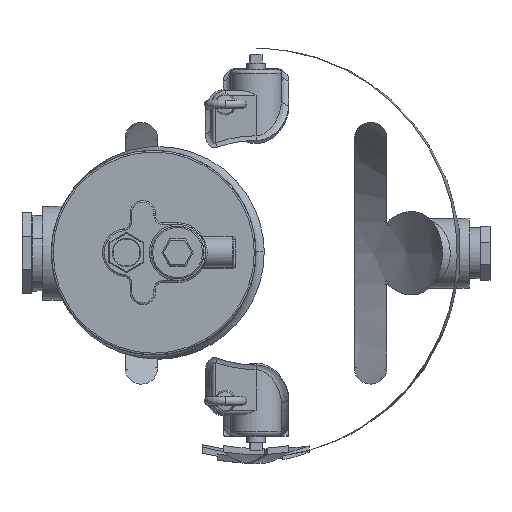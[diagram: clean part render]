
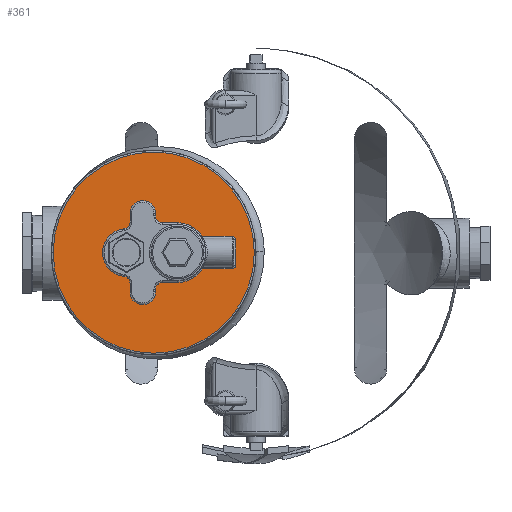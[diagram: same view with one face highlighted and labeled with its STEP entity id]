
A CAD part, top view. The second image highlights one B-rep face of the part: STEP entity #361.
In plain terms, the highlighted planar face has unit normal (0, 0, 1) as drawn and (0, 1, 0) by its records, which use the part's own axes.
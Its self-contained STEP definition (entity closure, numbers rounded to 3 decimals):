
#361=ADVANCED_FACE('',(#1639,#1640),#1638,.T.);
#1638=PLANE('',#22856);
#1639=FACE_OUTER_BOUND('',#22857,.T.);
#1640=FACE_BOUND('',#22858,.T.);
#22853=CARTESIAN_POINT('',(126.,283.5,-214.382));
#22854=DIRECTION('',(0.,1.,0.));
#22855=DIRECTION('',(-1.,0.,0.));
#22856=AXIS2_PLACEMENT_3D('',#22853,#22854,#22855);
#22857=EDGE_LOOP('',(#26950,#26951));
#22858=EDGE_LOOP('',(#26952,#26953,#26954,#26955,#26956,#26957,#26958,#26959,#26960,#26961,#26962,#26963,#26964,#26965,#26966,#26967,#26968,#26969,#26970,#26971));
#26950=ORIENTED_EDGE('',*,*,#28349,.T.);
#26951=ORIENTED_EDGE('',*,*,#28350,.T.);
#26952=ORIENTED_EDGE('',*,*,#28351,.T.);
#26953=ORIENTED_EDGE('',*,*,#28352,.T.);
#26954=ORIENTED_EDGE('',*,*,#28353,.T.);
#26955=ORIENTED_EDGE('',*,*,#28354,.T.);
#26956=ORIENTED_EDGE('',*,*,#28355,.T.);
#26957=ORIENTED_EDGE('',*,*,#28356,.T.);
#26958=ORIENTED_EDGE('',*,*,#28357,.T.);
#26959=ORIENTED_EDGE('',*,*,#28358,.T.);
#26960=ORIENTED_EDGE('',*,*,#28359,.T.);
#26961=ORIENTED_EDGE('',*,*,#28360,.T.);
#26962=ORIENTED_EDGE('',*,*,#28361,.T.);
#26963=ORIENTED_EDGE('',*,*,#28362,.T.);
#26964=ORIENTED_EDGE('',*,*,#28363,.T.);
#26965=ORIENTED_EDGE('',*,*,#28364,.T.);
#26966=ORIENTED_EDGE('',*,*,#28365,.T.);
#26967=ORIENTED_EDGE('',*,*,#28366,.T.);
#26968=ORIENTED_EDGE('',*,*,#28367,.T.);
#26969=ORIENTED_EDGE('',*,*,#28368,.T.);
#26970=ORIENTED_EDGE('',*,*,#28369,.T.);
#26971=ORIENTED_EDGE('',*,*,#28370,.T.);
#28349=EDGE_CURVE('',#30762,#30763,#30764,.T.);
#28350=EDGE_CURVE('',#30763,#30762,#30770,.T.);
#28351=EDGE_CURVE('',#30776,#30777,#30778,.T.);
#28352=EDGE_CURVE('',#30777,#30784,#30785,.T.);
#28353=EDGE_CURVE('',#30784,#30791,#30792,.T.);
#28354=EDGE_CURVE('',#30791,#30798,#30799,.T.);
#28355=EDGE_CURVE('',#30798,#30805,#30806,.T.);
#28356=EDGE_CURVE('',#30805,#30812,#30813,.T.);
#28357=EDGE_CURVE('',#30812,#30819,#30820,.T.);
#28358=EDGE_CURVE('',#30819,#30826,#30827,.T.);
#28359=EDGE_CURVE('',#30826,#30833,#30834,.T.);
#28360=EDGE_CURVE('',#30833,#30840,#30841,.T.);
#28361=EDGE_CURVE('',#30840,#30847,#30848,.T.);
#28362=EDGE_CURVE('',#30847,#30854,#30855,.T.);
#28363=EDGE_CURVE('',#30854,#30861,#30862,.T.);
#28364=EDGE_CURVE('',#30861,#30868,#30869,.T.);
#28365=EDGE_CURVE('',#30868,#30875,#30876,.T.);
#28366=EDGE_CURVE('',#30875,#30882,#30883,.T.);
#28367=EDGE_CURVE('',#30882,#30889,#30890,.T.);
#28368=EDGE_CURVE('',#30889,#30896,#30897,.T.);
#28369=EDGE_CURVE('',#30896,#30903,#30904,.T.);
#28370=EDGE_CURVE('',#30903,#30776,#30910,.T.);
#30762=VERTEX_POINT('',#37016);
#30763=VERTEX_POINT('',#37017);
#30764=CIRCLE('',#37021,118.);
#30770=CIRCLE('',#37025,118.);
#30776=VERTEX_POINT('',#37026);
#30777=VERTEX_POINT('',#37027);
#30778=LINE('',#37028,#37029);
#30784=VERTEX_POINT('',#37031);
#30785=CIRCLE('',#37035,4.);
#30791=VERTEX_POINT('',#37036);
#30792=LINE('',#37037,#37038);
#30798=VERTEX_POINT('',#37040);
#30799=CIRCLE('',#37044,35.);
#30805=VERTEX_POINT('',#37045);
#30806=LINE('',#37046,#37047);
#30812=VERTEX_POINT('',#37049);
#30813=CIRCLE('',#37053,8.);
#30819=VERTEX_POINT('',#37054);
#30820=LINE('',#37055,#37056);
#30826=VERTEX_POINT('',#37058);
#30827=CIRCLE('',#37062,15.);
#30833=VERTEX_POINT('',#37063);
#30834=LINE('',#37064,#37065);
#30840=VERTEX_POINT('',#37067);
#30841=CIRCLE('',#37071,8.);
#30847=VERTEX_POINT('',#37072);
#30848=CIRCLE('',#37076,28.);
#30854=VERTEX_POINT('',#37077);
#30855=CIRCLE('',#37081,8.);
#30861=VERTEX_POINT('',#37082);
#30862=LINE('',#37083,#37084);
#30868=VERTEX_POINT('',#37086);
#30869=CIRCLE('',#37090,15.);
#30875=VERTEX_POINT('',#37091);
#30876=LINE('',#37092,#37093);
#30882=VERTEX_POINT('',#37095);
#30883=CIRCLE('',#37099,8.);
#30889=VERTEX_POINT('',#37100);
#30890=LINE('',#37101,#37102);
#30896=VERTEX_POINT('',#37104);
#30897=CIRCLE('',#37108,35.);
#30903=VERTEX_POINT('',#37109);
#30904=LINE('',#37110,#37111);
#30910=CIRCLE('',#37116,4.);
#37016=CARTESIAN_POINT('',(-238.,283.5,0.));
#37017=CARTESIAN_POINT('',(-2.,283.5,0.));
#37018=CARTESIAN_POINT('',(-120.,283.5,0.));
#37019=DIRECTION('',(0.,1.,0.));
#37020=DIRECTION('',(-1.,0.,0.));
#37021=AXIS2_PLACEMENT_3D('',#37018,#37019,#37020);
#37022=CARTESIAN_POINT('',(-120.,283.5,0.));
#37023=DIRECTION('',(0.,1.,0.));
#37024=DIRECTION('',(-1.,0.,0.));
#37025=AXIS2_PLACEMENT_3D('',#37022,#37023,#37024);
#37026=CARTESIAN_POINT('',(-24.,283.5,-15.));
#37027=CARTESIAN_POINT('',(-24.,283.5,15.));
#37028=CARTESIAN_POINT('',(-24.,283.5,-15.));
#37029=VECTOR('',#37030,30.);
#37030=DIRECTION('',(0.,0.,1.));
#37031=CARTESIAN_POINT('',(-28.,283.5,19.));
#37032=CARTESIAN_POINT('',(-28.,283.5,15.));
#37033=DIRECTION('',(0.,-1.,0.));
#37034=DIRECTION('',(-1.,0.,0.));
#37035=AXIS2_PLACEMENT_3D('',#37032,#37033,#37034);
#37036=CARTESIAN_POINT('',(-62.606,283.5,19.));
#37037=CARTESIAN_POINT('',(-28.,283.5,19.));
#37038=VECTOR('',#37039,34.606);
#37039=DIRECTION('',(-1.,0.,0.));
#37040=CARTESIAN_POINT('',(-92.,283.5,35.));
#37041=CARTESIAN_POINT('',(-92.,283.5,0.));
#37042=DIRECTION('',(0.,-1.,0.));
#37043=DIRECTION('',(-0.84,0.,-0.543));
#37044=AXIS2_PLACEMENT_3D('',#37041,#37042,#37043);
#37045=CARTESIAN_POINT('',(-109.8,283.5,35.));
#37046=CARTESIAN_POINT('',(-92.,283.5,35.));
#37047=VECTOR('',#37048,17.8);
#37048=DIRECTION('',(-1.,0.,0.));
#37049=CARTESIAN_POINT('',(-117.8,283.5,43.));
#37050=CARTESIAN_POINT('',(-109.8,283.5,43.));
#37051=DIRECTION('',(0.,1.,0.));
#37052=DIRECTION('',(0.,0.,1.));
#37053=AXIS2_PLACEMENT_3D('',#37050,#37051,#37052);
#37054=CARTESIAN_POINT('',(-117.8,283.5,46.));
#37055=CARTESIAN_POINT('',(-117.8,283.5,43.));
#37056=VECTOR('',#37057,3.);
#37057=DIRECTION('',(0.,0.,1.));
#37058=CARTESIAN_POINT('',(-147.8,283.5,46.));
#37059=CARTESIAN_POINT('',(-132.8,283.5,46.));
#37060=DIRECTION('',(0.,-1.,0.));
#37061=DIRECTION('',(-1.,0.,0.));
#37062=AXIS2_PLACEMENT_3D('',#37059,#37060,#37061);
#37063=CARTESIAN_POINT('',(-147.8,283.5,35.799));
#37064=CARTESIAN_POINT('',(-147.8,283.5,46.));
#37065=VECTOR('',#37066,10.201);
#37066=DIRECTION('',(0.,0.,-1.));
#37067=CARTESIAN_POINT('',(-154.956,283.5,27.844));
#37068=CARTESIAN_POINT('',(-155.8,283.5,35.799));
#37069=DIRECTION('',(0.,1.,0.));
#37070=DIRECTION('',(-1.,0.,0.));
#37071=AXIS2_PLACEMENT_3D('',#37068,#37069,#37070);
#37072=CARTESIAN_POINT('',(-154.956,283.5,-27.844));
#37073=CARTESIAN_POINT('',(-152.,283.5,0.));
#37074=DIRECTION('',(0.,-1.,0.));
#37075=DIRECTION('',(0.106,0.,-0.994));
#37076=AXIS2_PLACEMENT_3D('',#37073,#37074,#37075);
#37077=CARTESIAN_POINT('',(-147.8,283.5,-35.799));
#37078=CARTESIAN_POINT('',(-155.8,283.5,-35.799));
#37079=DIRECTION('',(0.,1.,0.));
#37080=DIRECTION('',(-0.106,0.,-0.994));
#37081=AXIS2_PLACEMENT_3D('',#37078,#37079,#37080);
#37082=CARTESIAN_POINT('',(-147.8,283.5,-46.));
#37083=CARTESIAN_POINT('',(-147.8,283.5,-35.799));
#37084=VECTOR('',#37085,10.201);
#37085=DIRECTION('',(0.,0.,-1.));
#37086=CARTESIAN_POINT('',(-117.8,283.5,-46.));
#37087=CARTESIAN_POINT('',(-132.8,283.5,-46.));
#37088=DIRECTION('',(0.,-1.,0.));
#37089=DIRECTION('',(1.,0.,0.));
#37090=AXIS2_PLACEMENT_3D('',#37087,#37088,#37089);
#37091=CARTESIAN_POINT('',(-117.8,283.5,-43.));
#37092=CARTESIAN_POINT('',(-117.8,283.5,-46.));
#37093=VECTOR('',#37094,3.);
#37094=DIRECTION('',(0.,0.,1.));
#37095=CARTESIAN_POINT('',(-109.8,283.5,-35.));
#37096=CARTESIAN_POINT('',(-109.8,283.5,-43.));
#37097=DIRECTION('',(0.,1.,0.));
#37098=DIRECTION('',(1.,0.,0.));
#37099=AXIS2_PLACEMENT_3D('',#37096,#37097,#37098);
#37100=CARTESIAN_POINT('',(-92.,283.5,-35.));
#37101=CARTESIAN_POINT('',(-109.8,283.5,-35.));
#37102=VECTOR('',#37103,17.8);
#37103=DIRECTION('',(1.,0.,0.));
#37104=CARTESIAN_POINT('',(-62.606,283.5,-19.));
#37105=CARTESIAN_POINT('',(-92.,283.5,0.));
#37106=DIRECTION('',(0.,-1.,0.));
#37107=DIRECTION('',(0.,0.,1.));
#37108=AXIS2_PLACEMENT_3D('',#37105,#37106,#37107);
#37109=CARTESIAN_POINT('',(-28.,283.5,-19.));
#37110=CARTESIAN_POINT('',(-62.606,283.5,-19.));
#37111=VECTOR('',#37112,34.606);
#37112=DIRECTION('',(1.,0.,0.));
#37113=CARTESIAN_POINT('',(-28.,283.5,-15.));
#37114=DIRECTION('',(0.,-1.,0.));
#37115=DIRECTION('',(0.,0.,1.));
#37116=AXIS2_PLACEMENT_3D('',#37113,#37114,#37115);
